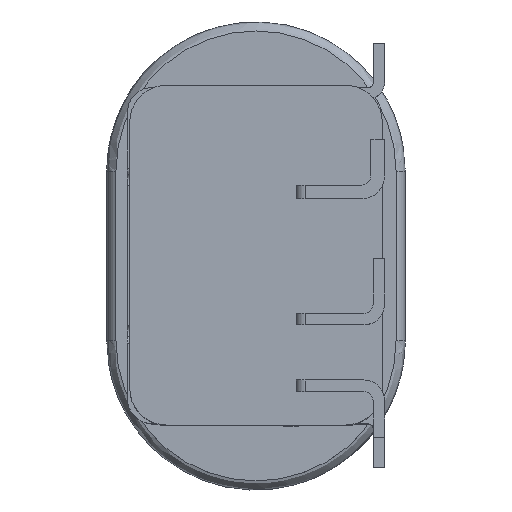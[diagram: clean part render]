
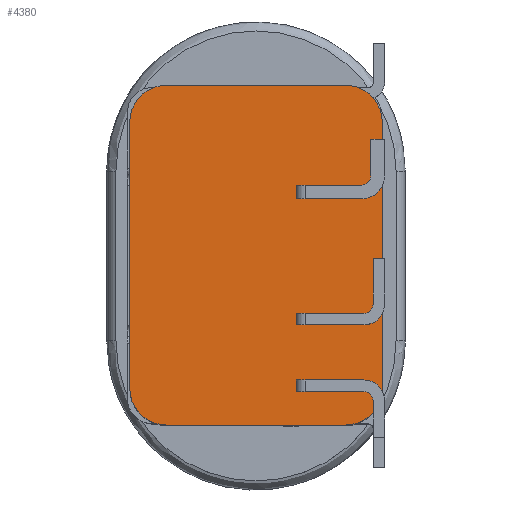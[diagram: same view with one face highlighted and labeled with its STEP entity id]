
A CAD part, top view. The second image highlights one B-rep face of the part: STEP entity #4380.
In plain terms, the highlighted planar face has unit normal (0, 0, 1).
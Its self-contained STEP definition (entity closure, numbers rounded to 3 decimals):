
#396=DIRECTION('',(0.,-1.,0.));
#397=VECTOR('',#396,5.8);
#398=CARTESIAN_POINT('',(2.75,2.2,12.1));
#399=LINE('',#398,#397);
#420=CARTESIAN_POINT('',(1.95,2.2,12.1));
#421=DIRECTION('',(0.,0.,1.));
#422=DIRECTION('',(1.,0.,0.));
#423=AXIS2_PLACEMENT_3D('',#420,#421,#422);
#425=CARTESIAN_POINT('',(1.95,-3.6,12.1));
#426=DIRECTION('',(0.,0.,1.));
#427=DIRECTION('',(0.,-1.,0.));
#428=AXIS2_PLACEMENT_3D('',#425,#426,#427);
#430=CARTESIAN_POINT('',(-1.95,-3.6,12.1));
#431=DIRECTION('',(0.,0.,1.));
#432=DIRECTION('',(-1.,0.,0.));
#433=AXIS2_PLACEMENT_3D('',#430,#431,#432);
#435=CARTESIAN_POINT('',(-1.95,2.2,12.1));
#436=DIRECTION('',(0.,0.,1.));
#437=DIRECTION('',(0.,1.,0.));
#438=AXIS2_PLACEMENT_3D('',#435,#436,#437);
#440=DIRECTION('',(-1.,0.,0.));
#441=VECTOR('',#440,0.98);
#442=CARTESIAN_POINT('',(1.855,-2.22,12.1));
#443=LINE('',#442,#441);
#470=DIRECTION('',(0.,-1.,0.));
#471=VECTOR('',#470,0.25);
#472=CARTESIAN_POINT('',(0.875,-1.97,12.1));
#473=LINE('',#472,#471);
#478=DIRECTION('',(-1.,0.,0.));
#479=VECTOR('',#478,0.98);
#480=CARTESIAN_POINT('',(1.855,-1.97,12.1));
#481=LINE('',#480,#479);
#496=DIRECTION('',(0.,1.,0.));
#497=VECTOR('',#496,0.25);
#498=CARTESIAN_POINT('',(1.855,-2.22,12.1));
#499=LINE('',#498,#497);
#642=DIRECTION('',(0.,1.,0.));
#643=VECTOR('',#642,0.25);
#644=CARTESIAN_POINT('',(0.875,-3.67,12.1));
#645=LINE('',#644,#643);
#650=DIRECTION('',(1.,0.,0.));
#651=VECTOR('',#650,0.98);
#652=CARTESIAN_POINT('',(0.875,-3.42,12.1));
#653=LINE('',#652,#651);
#676=DIRECTION('',(0.,1.,0.));
#677=VECTOR('',#676,0.25);
#678=CARTESIAN_POINT('',(1.855,-3.67,12.1));
#679=LINE('',#678,#677);
#680=DIRECTION('',(-1.,0.,0.));
#681=VECTOR('',#680,0.98);
#682=CARTESIAN_POINT('',(1.855,-3.67,12.1));
#683=LINE('',#682,#681);
#855=DIRECTION('',(0.,-1.,0.));
#856=VECTOR('',#855,0.3);
#857=CARTESIAN_POINT('',(1.855,0.825,12.1));
#858=LINE('',#857,#856);
#863=DIRECTION('',(-1.,0.,0.));
#864=VECTOR('',#863,0.98);
#865=CARTESIAN_POINT('',(1.855,0.525,12.1));
#866=LINE('',#865,#864);
#893=DIRECTION('',(0.,-1.,0.));
#894=VECTOR('',#893,0.3);
#895=CARTESIAN_POINT('',(0.875,0.825,12.1));
#896=LINE('',#895,#894);
#901=DIRECTION('',(1.,0.,0.));
#902=VECTOR('',#901,0.98);
#903=CARTESIAN_POINT('',(0.875,0.825,12.1));
#904=LINE('',#903,#902);
#1085=DIRECTION('',(-1.,0.,0.));
#1086=VECTOR('',#1085,3.9);
#1087=CARTESIAN_POINT('',(1.95,-4.4,12.1));
#1088=LINE('',#1087,#1086);
#1097=DIRECTION('',(0.,1.,0.));
#1098=VECTOR('',#1097,5.8);
#1099=CARTESIAN_POINT('',(-2.75,-3.6,12.1));
#1100=LINE('',#1099,#1098);
#1113=DIRECTION('',(1.,0.,0.));
#1114=VECTOR('',#1113,3.9);
#1115=CARTESIAN_POINT('',(-1.95,3.,12.1));
#1116=LINE('',#1115,#1114);
#3033=CARTESIAN_POINT('',(-2.75,2.2,12.1));
#3035=VERTEX_POINT('',#3033);
#3060=CARTESIAN_POINT('',(-2.75,-3.6,12.1));
#3062=VERTEX_POINT('',#3060);
#3110=CARTESIAN_POINT('',(-1.95,3.,12.1));
#3111=VERTEX_POINT('',#3110);
#3113=CARTESIAN_POINT('',(2.75,-3.6,12.1));
#3115=VERTEX_POINT('',#3113);
#3166=CARTESIAN_POINT('',(1.95,-4.4,12.1));
#3167=VERTEX_POINT('',#3166);
#3224=CARTESIAN_POINT('',(-1.95,-4.4,12.1));
#3225=VERTEX_POINT('',#3224);
#3238=CARTESIAN_POINT('',(1.95,3.,12.1));
#3239=VERTEX_POINT('',#3238);
#3240=CARTESIAN_POINT('',(2.75,2.2,12.1));
#3241=VERTEX_POINT('',#3240);
#3826=CARTESIAN_POINT('',(1.855,0.825,12.1));
#3827=CARTESIAN_POINT('',(1.855,0.525,12.1));
#3828=VERTEX_POINT('',#3826);
#3829=VERTEX_POINT('',#3827);
#3830=CARTESIAN_POINT('',(0.875,0.825,12.1));
#3831=CARTESIAN_POINT('',(0.875,0.525,12.1));
#3832=VERTEX_POINT('',#3830);
#3833=VERTEX_POINT('',#3831);
#3834=CARTESIAN_POINT('',(0.875,-3.67,12.1));
#3835=CARTESIAN_POINT('',(0.875,-3.42,12.1));
#3836=VERTEX_POINT('',#3834);
#3837=VERTEX_POINT('',#3835);
#3838=CARTESIAN_POINT('',(1.855,-3.42,12.1));
#3839=VERTEX_POINT('',#3838);
#3840=CARTESIAN_POINT('',(1.855,-3.67,12.1));
#3841=VERTEX_POINT('',#3840);
#3842=CARTESIAN_POINT('',(1.855,-2.22,12.1));
#3843=CARTESIAN_POINT('',(0.875,-2.22,12.1));
#3844=VERTEX_POINT('',#3842);
#3845=VERTEX_POINT('',#3843);
#3846=CARTESIAN_POINT('',(1.855,-1.97,12.1));
#3847=CARTESIAN_POINT('',(0.875,-1.97,12.1));
#3848=VERTEX_POINT('',#3846);
#3849=VERTEX_POINT('',#3847);
#4329=CARTESIAN_POINT('',(-2.75,-3.9,12.1));
#4330=DIRECTION('',(0.,0.,1.));
#4331=DIRECTION('',(1.,0.,0.));
#4332=AXIS2_PLACEMENT_3D('',#4329,#4330,#4331);
#4333=PLANE('',#4332);
#4334=ORIENTED_EDGE('',*,*,#4281,.F.);
#4335=ORIENTED_EDGE('',*,*,#4307,.T.);
#4337=ORIENTED_EDGE('',*,*,#4336,.F.);
#4339=ORIENTED_EDGE('',*,*,#4338,.T.);
#4341=ORIENTED_EDGE('',*,*,#4340,.F.);
#4343=ORIENTED_EDGE('',*,*,#4342,.T.);
#4345=ORIENTED_EDGE('',*,*,#4344,.F.);
#4347=ORIENTED_EDGE('',*,*,#4346,.T.);
#4348=EDGE_LOOP('',(#4334,#4335,#4337,#4339,#4341,#4343,#4345,#4347));
#4349=FACE_OUTER_BOUND('',#4348,.F.);
#4351=ORIENTED_EDGE('',*,*,#4350,.F.);
#4353=ORIENTED_EDGE('',*,*,#4352,.F.);
#4355=ORIENTED_EDGE('',*,*,#4354,.T.);
#4357=ORIENTED_EDGE('',*,*,#4356,.F.);
#4358=EDGE_LOOP('',(#4351,#4353,#4355,#4357));
#4359=FACE_BOUND('',#4358,.F.);
#4361=ORIENTED_EDGE('',*,*,#4360,.F.);
#4363=ORIENTED_EDGE('',*,*,#4362,.F.);
#4365=ORIENTED_EDGE('',*,*,#4364,.T.);
#4367=ORIENTED_EDGE('',*,*,#4366,.F.);
#4368=EDGE_LOOP('',(#4361,#4363,#4365,#4367));
#4369=FACE_BOUND('',#4368,.F.);
#4371=ORIENTED_EDGE('',*,*,#4370,.F.);
#4373=ORIENTED_EDGE('',*,*,#4372,.T.);
#4375=ORIENTED_EDGE('',*,*,#4374,.T.);
#4377=ORIENTED_EDGE('',*,*,#4376,.T.);
#4378=EDGE_LOOP('',(#4371,#4373,#4375,#4377));
#4379=FACE_BOUND('',#4378,.F.);
#424=CIRCLE('',#423,0.8);
#429=CIRCLE('',#428,0.8);
#434=CIRCLE('',#433,0.8);
#439=CIRCLE('',#438,0.8);
#4281=EDGE_CURVE('',#3241,#3239,#424,.T.);
#4307=EDGE_CURVE('',#3241,#3115,#399,.T.);
#4336=EDGE_CURVE('',#3167,#3115,#429,.T.);
#4338=EDGE_CURVE('',#3167,#3225,#1088,.T.);
#4340=EDGE_CURVE('',#3062,#3225,#434,.T.);
#4342=EDGE_CURVE('',#3062,#3035,#1100,.T.);
#4344=EDGE_CURVE('',#3111,#3035,#439,.T.);
#4346=EDGE_CURVE('',#3111,#3239,#1116,.T.);
#4350=EDGE_CURVE('',#3836,#3837,#645,.T.);
#4352=EDGE_CURVE('',#3841,#3836,#683,.T.);
#4354=EDGE_CURVE('',#3841,#3839,#679,.T.);
#4356=EDGE_CURVE('',#3837,#3839,#653,.T.);
#4360=EDGE_CURVE('',#3828,#3829,#858,.T.);
#4362=EDGE_CURVE('',#3832,#3828,#904,.T.);
#4364=EDGE_CURVE('',#3832,#3833,#896,.T.);
#4366=EDGE_CURVE('',#3829,#3833,#866,.T.);
#4370=EDGE_CURVE('',#3844,#3845,#443,.T.);
#4372=EDGE_CURVE('',#3844,#3848,#499,.T.);
#4374=EDGE_CURVE('',#3848,#3849,#481,.T.);
#4376=EDGE_CURVE('',#3849,#3845,#473,.T.);
#4380=ADVANCED_FACE('',(#4349,#4359,#4369,#4379),#4333,.T.);
